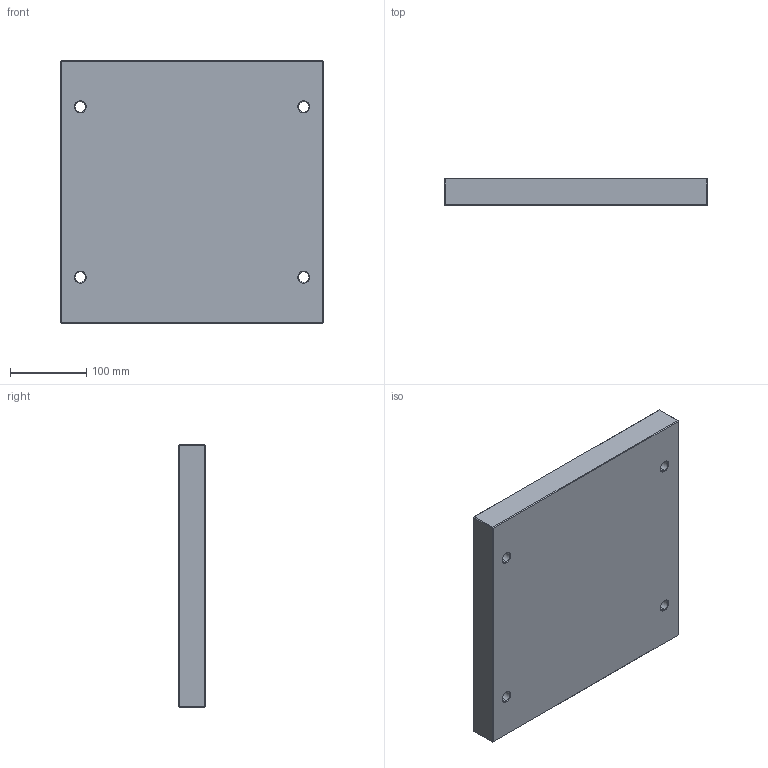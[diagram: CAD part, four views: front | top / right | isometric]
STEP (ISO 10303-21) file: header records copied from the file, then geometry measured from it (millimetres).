
FILE_DESCRIPTION (( 'STEP AP214' ), '1' );
FILE_NAME ('PBAS-346x346x36.STEP', '2020-03-24T15:40:19', ( 'August' ), ( '' ), 'SwSTEP 2.0', 'SolidWorks 2018', '' );
FILE_SCHEMA (( 'AUTOMOTIVE_DESIGN' ));
Length unit declared in the file: millimetre
Products named in the file (1): PBAS-346x346x36
Bounding box: 346 x 36 x 346 mm (x, y, z)
Volume: 4276963.9 mm3; surface area: 293464.8 mm2
Topology: 1 solids, 1 shells, 62 faces, 128 edges, 72 vertices
Faces by surface type: plane 30, cone 16, cylinder 16
Entity records: 1650 total; most frequent: DIRECTION 302, CARTESIAN_POINT 263, ORIENTED_EDGE 256, EDGE_CURVE 128, AXIS2_PLACEMENT_3D 111, VECTOR 80, LINE 80, EDGE_LOOP 74
